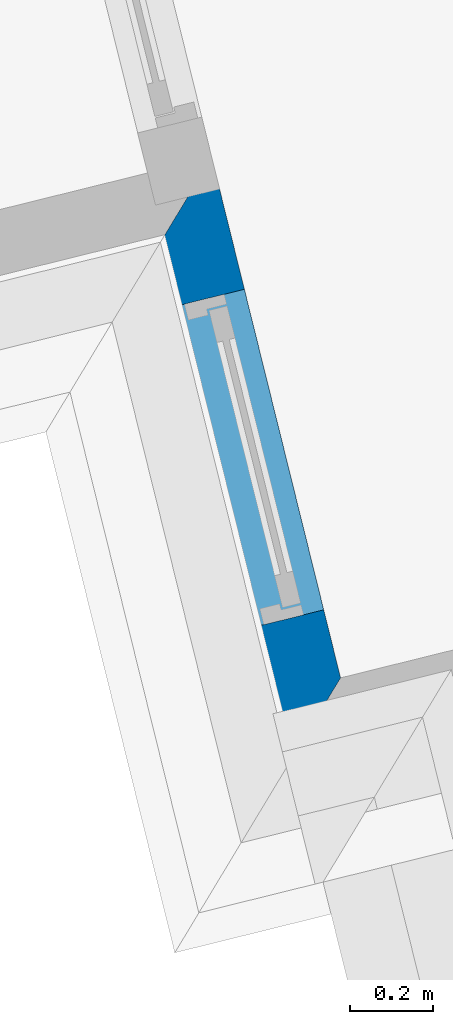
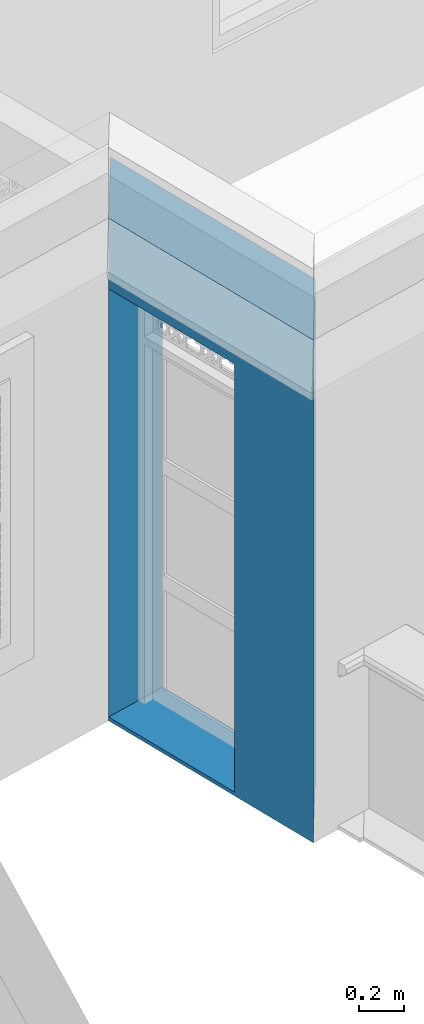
# One storey, part 8 of 15: 1 wall, 1 opening.
"""IFC4 building model written with IfcOpenShell, lengths in metres."""

from ifc_helpers import new_model, si_unit, frame, origin_with_axes, place, context, subcontext, project, spatial, polyline, outline, extrude, material, layer, layer_set, layer_usage, type_object, element, save


model = new_model("IFC4")

# Units and contexts
model_context = context("Model", 3, world=origin_with_axes())
body_context = subcontext(model_context, "Body", "Model", "MODEL_VIEW")
ifc_project = project(units=[si_unit("PLANEANGLEUNIT", "RADIAN"), si_unit("MASSUNIT", "GRAM", prefix="KILO"), si_unit("FORCEUNIT", "NEWTON", prefix="KILO"), si_unit("LENGTHUNIT", "METRE"), si_unit("AREAUNIT", "SQUARE_METRE"), si_unit("VOLUMEUNIT", "CUBIC_METRE")], contexts=[model_context, model_context])

# Site, building, storey
site_placement = place(None, origin_with_axes())
site = spatial("IfcSite", under=ifc_project, at=site_placement, Name="Site plot-5", CompositionType="ELEMENT")
building_placement = place(None, origin_with_axes())
building = spatial("IfcBuilding", under=site, at=building_placement, Name="Building plot-5", CompositionType="ELEMENT")
storey_placement = place(None, frame((0.0, 0.0, 3.45), z_axis=(0.0, 0.0, 1.0), x_axis=(1.0, 0.0, 0.0)))
storey = spatial("IfcBuildingStorey", under=building, at=storey_placement, Name="plot-5 1", CompositionType="ELEMENT", Elevation=3.45)

# Wall, opening
ifc_material = material(Name="Masonry")
ifc_layer = layer(ifc_material, 0.33, ventilated=False)
ifc_layer_set = layer_set([ifc_layer], Name="exterior_0.08_0.25")
ifc_layer_usage = layer_usage(ifc_layer_set, "AXIS2", "POSITIVE", -0.25)
wall_type = type_object("IfcWallType", Name="exterior_0.08_0.25", PredefinedType="SOLIDWALL", material=ifc_layer_set)
wall_placement = place(storey_placement, frame((17.8267056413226, 28.7015786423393, 0.0), z_axis=(0.0, 0.0, 1.0), x_axis=(0.240250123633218, -0.970711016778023, 0.0)))
wall = element("IfcWall", 1, at=wall_placement, inside=storey, type_object=wall_type, material=ifc_layer_usage, Name="exterior", context=body_context, shape_type="SweptSolid", body=[
    extrude(outline(polyline([(-0.0800000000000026, 0.0800000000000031), (0.250000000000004, -0.250000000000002), (1.54962653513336, -0.250000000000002), (1.21962653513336, 0.0800000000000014), (-0.0800000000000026, 0.0800000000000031)])), origin_with_axes(), (0.0, 0.0, 1.0), 2.7),
])
opening_placement = place(wall_placement, frame((0.249813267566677, 0.0, 0.02)))
element("IfcOpeningElement", 2, at=opening_placement, cuts=wall, Name="My Opening", ObjectType="Opening", context=body_context, shape_type="SweptSolid", body=[
    extrude(outline(polyline([(0.0, -0.269999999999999), (0.8, -0.269999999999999), (0.8, 1.1), (5.27355936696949e-16, 1.1), (0.0, -0.269999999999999)])), origin_with_axes(), (0.0, 0.0, 1.0), 2.3),
])

save(model, "model.ifc")
